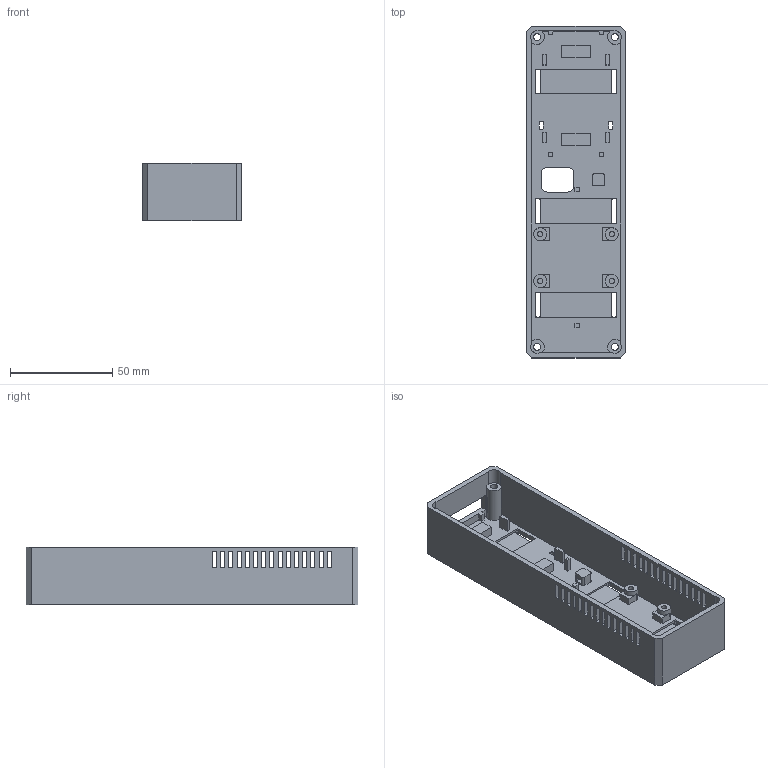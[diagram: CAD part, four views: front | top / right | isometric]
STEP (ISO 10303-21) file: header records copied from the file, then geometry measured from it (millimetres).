
FILE_DESCRIPTION(('Open CASCADE Model'),'2;1');
FILE_NAME('Open CASCADE Shape Model','2026-09-07T23:15:23',('Author'),( 'Open CASCADE'),'Open CASCADE STEP processor 7.9','build123d', 'Unknown');
FILE_SCHEMA(('AUTOMOTIVE_DESIGN { 1 0 10303 214 1 1 1 1 }'));
Length unit declared in the file: millimetre
Products named in the file (1): COMPOUND
Bounding box: 48 x 162 x 28 mm (x, y, z)
Volume: 43471.1 mm3; surface area: 40245.1 mm2
Topology: 1 solids, 1 shells, 362 faces, 1018 edges, 676 vertices
Faces by surface type: plane 302, cylinder 60
Full cylindrical faces by diameter (mm): 2.6 x4, 3.4 x4, 6.4 x4
Entity records: 24545 total; most frequent: CARTESIAN_POINT 5313, DIRECTION 3135, LINE 2076, VECTOR 2076, ORIENTED_EDGE 2036, PCURVE 2036, DEFINITIONAL_REPRESENTATION 2036, EDGE_CURVE 1018
